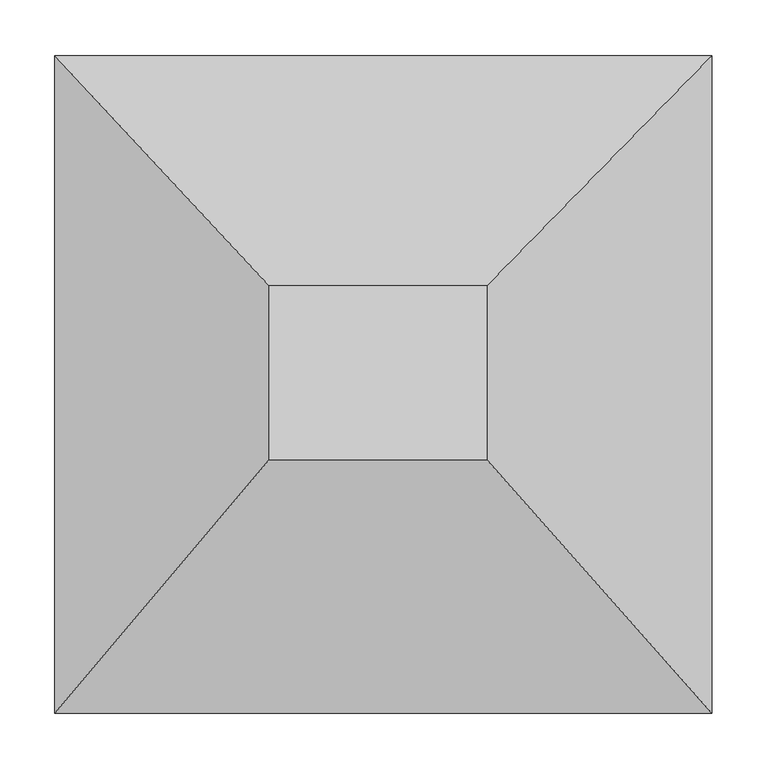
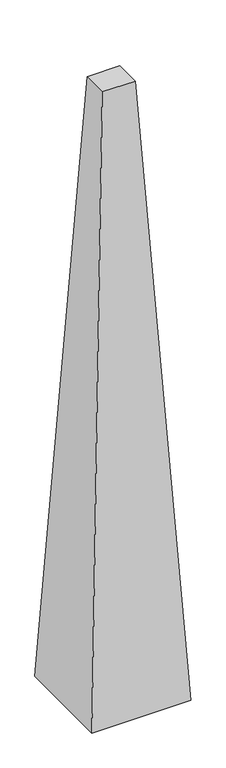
"""IFC4 building model written with IfcOpenShell, lengths in millimetres: column geometry, 族群6 : 族群6."""

from ifc_helpers import new_model, si_unit, origin, place, context, project, spatial, faceted_brep, source, transform, mapped, element, save


def column_9f330081(model_context):
    return source(origin(), model_context, "Body", "Brep", [
        faceted_brep([(95.1041578, 89.8686579, 3907.0558666), (-104.8958422, 89.8686579, 3907.0558666), (-104.8958422, -70.1313421, 3907.0558666), (95.1041578, -70.1313421, 3907.0558666), (300.0, 300.0, 0.0), (300.0, -300.0, 0.0), (-300.0, -300.0, 0.0), (-300.0, 300.0, 0.0)], [[[0, 1, 2, 3]], [[4, 5, 6, 7]], [[4, 7, 1, 0]], [[7, 6, 2, 1]], [[6, 5, 3, 2]], [[5, 4, 0, 3]]]),
    ])


if __name__ == "__main__":
    model = new_model("IFC4")
    model_context = context("Model", 3, world=origin())
    ifc_project = project(units=[si_unit("LENGTHUNIT", "METRE", prefix="MILLI")], contexts=[model_context])
    site = spatial("IfcSite", under=ifc_project)
    building = spatial("IfcBuilding", under=site)
    placement = place(None, origin())
    column_shape = column_9f330081(model_context)
    element("IfcColumn", 1, ObjectType="族群6 : 族群6", at=placement, inside=building, context=model_context, shape_type="MappedRepresentation", body=[
        mapped(column_shape, transform((0.0, 0.0, 0.0), x_axis=(1.0, 0.0, 0.0), y_axis=(0.0, 1.0, 0.0), z_axis=(0.0, 0.0, 1.0))),
    ])
    save(model, "model.ifc")
